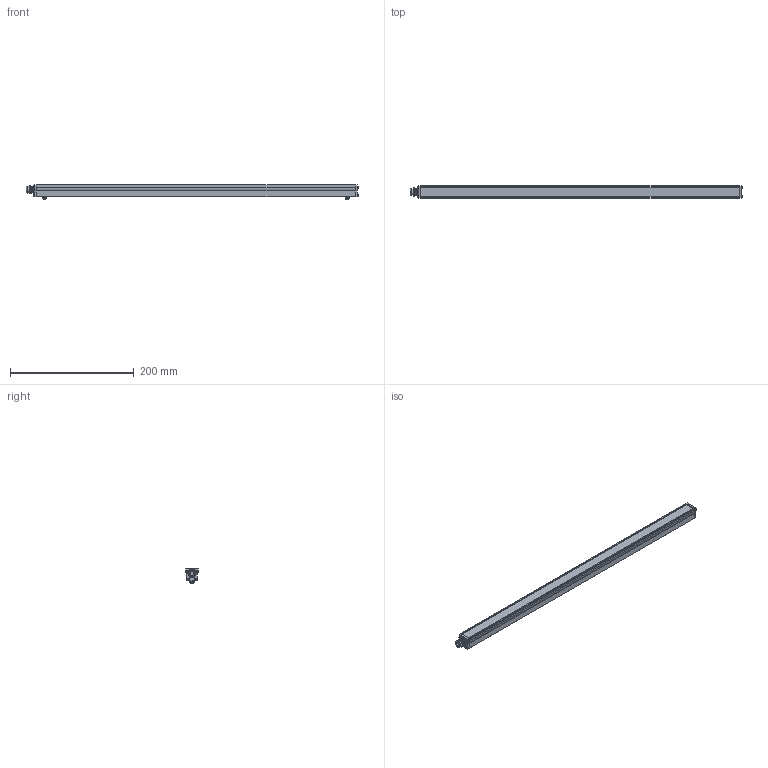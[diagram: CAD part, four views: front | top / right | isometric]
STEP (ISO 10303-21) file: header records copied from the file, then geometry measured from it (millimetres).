
FILE_DESCRIPTION (( 'STEP AP214' ), '1' );
FILE_NAME ('AL126 _NONSEALED__AL12620.stp', '2021-04-29T14:25:09', ( '' ), ( '' ), 'SwSTEP 2.0', 'SolidWorks 2018', '' );
FILE_SCHEMA (( 'AUTOMOTIVE_DESIGN' ));
Length unit declared in the file: inch
Products named in the file (15): HN-M4_90592A016; 093474_093474; 10mm Advanced illumination; 10mm Label (116 126)_Default<As Machined>; AL126 _NONSEALED__AL12620; 10mm Ai; 091064_Model_Dome Fittings_Thread Type and Size(Dome)_M10 x 1.5_Hazardous Location-Explosive Proof(ATEX and EExe Versions)_No_; 093469_093469; 090889-XX_090889-20; BH-M4x6; 090876; 10mm Swish_Default<As Machined>; 090877-XX_090877-20; 090875; 091052 (116 126)
Assembly tree (24 placements, depth 3):
  AL126 _NONSEALED__AL12620
    090889-XX_090889-20
    090877-XX_090877-20
    090875
    090876
    093474_093474  x8
    093469_093469  x2
    091064_Model_Dome Fittings_Thread Type and Size(Dome)_M10 x 1.5_Hazardous Location-Explosive Proof(ATEX and EExe Versions)_No_
    HN-M4_90592A016  x2
    BH-M4x6  x2
    091052 (116 126)
      10mm Label (116 126)_Default<As Machined>
      10mm Ai
      10mm Swish_Default<As Machined>
      10mm Advanced illumination
Bounding box: 537.13 x 20.02 x 24.1 mm (x, y, z)
Volume: 72343 mm3; surface area: 103547.3 mm2
Topology: 48 solids, 48 shells, 1877 faces, 4840 edges, 3010 vertices
Faces by surface type: cylinder 934, plane 401, cone 362, bspline 120, torus 60
Entity records: 30293 total; most frequent: CARTESIAN_POINT 10456, ORIENTED_EDGE 4076, DIRECTION 3580, EDGE_CURVE 2038, VERTEX_POINT 1298, AXIS2_PLACEMENT_3D 1276, VECTOR 1028, LINE 1028
